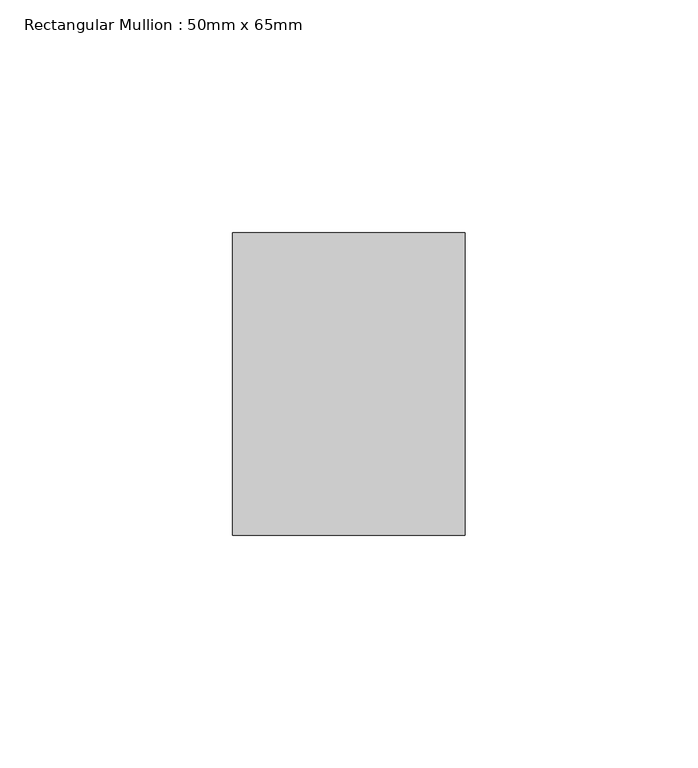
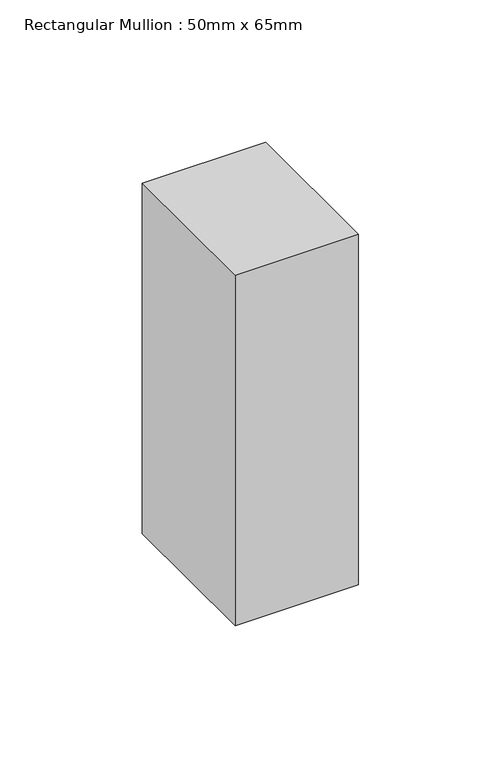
"""IFC4 building model written with IfcOpenShell, lengths in millimetres: member geometry, Rectangular Mullion : 50mm x 65mm."""

from ifc_helpers import new_model, si_unit, frame, origin, place, context, project, spatial, polyline, outline, extrude, source, transform, mapped, element, save


def rectangular_mullion_50mm_x_65mm_3efa6989(model_context):
    return source(origin(), model_context, "Body", "SweptSolid", [
        extrude(outline(polyline([(0.0, 32.5), (0.0, -32.5), (-50.0, -32.5), (-50.0, 32.5), (0.0, 32.5)])), frame((0.0, 0.0, -150.0), z_axis=(0.0, 0.0, 1.0), x_axis=(1.0, 0.0, 0.0)), (0.0, 0.0, 1.0), 150.0),
    ])


if __name__ == "__main__":
    model = new_model("IFC4")
    model_context = context("Model", 3, world=origin())
    ifc_project = project(units=[si_unit("LENGTHUNIT", "METRE", prefix="MILLI")], contexts=[model_context])
    site = spatial("IfcSite", under=ifc_project)
    building = spatial("IfcBuilding", under=site)
    placement = place(None, origin())
    rectangular_mullion_50mm_x_65mm_shape = rectangular_mullion_50mm_x_65mm_3efa6989(model_context)
    element("IfcMember", 1, ObjectType="Rectangular Mullion : 50mm x 65mm", at=placement, inside=building, context=model_context, shape_type="MappedRepresentation", body=[
        mapped(rectangular_mullion_50mm_x_65mm_shape, transform((0.0, 0.0, 0.0), x_axis=(1.0, 0.0, 0.0), y_axis=(0.0, 1.0, 0.0), z_axis=(0.0, 0.0, 1.0))),
    ])
    save(model, "model.ifc")
